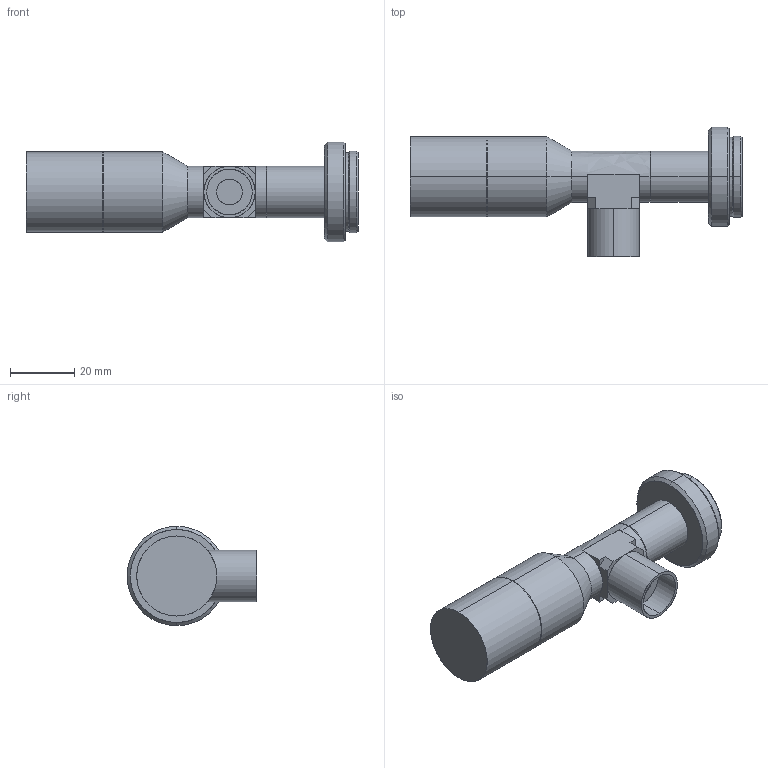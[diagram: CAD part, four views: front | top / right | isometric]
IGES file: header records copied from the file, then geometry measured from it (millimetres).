
Start section: SolidWorks IGES file using analytic representation for surfaces
Bounding box: 103.6 x 40.5 x 31 mm (x, y, z)
Surface area: 10325.6 mm2 (no closed solid volume)
Topology: 0 solids, 0 shells, 68 faces, 744 edges, 744 vertices
Faces by surface type: revolution 39, bspline 29
